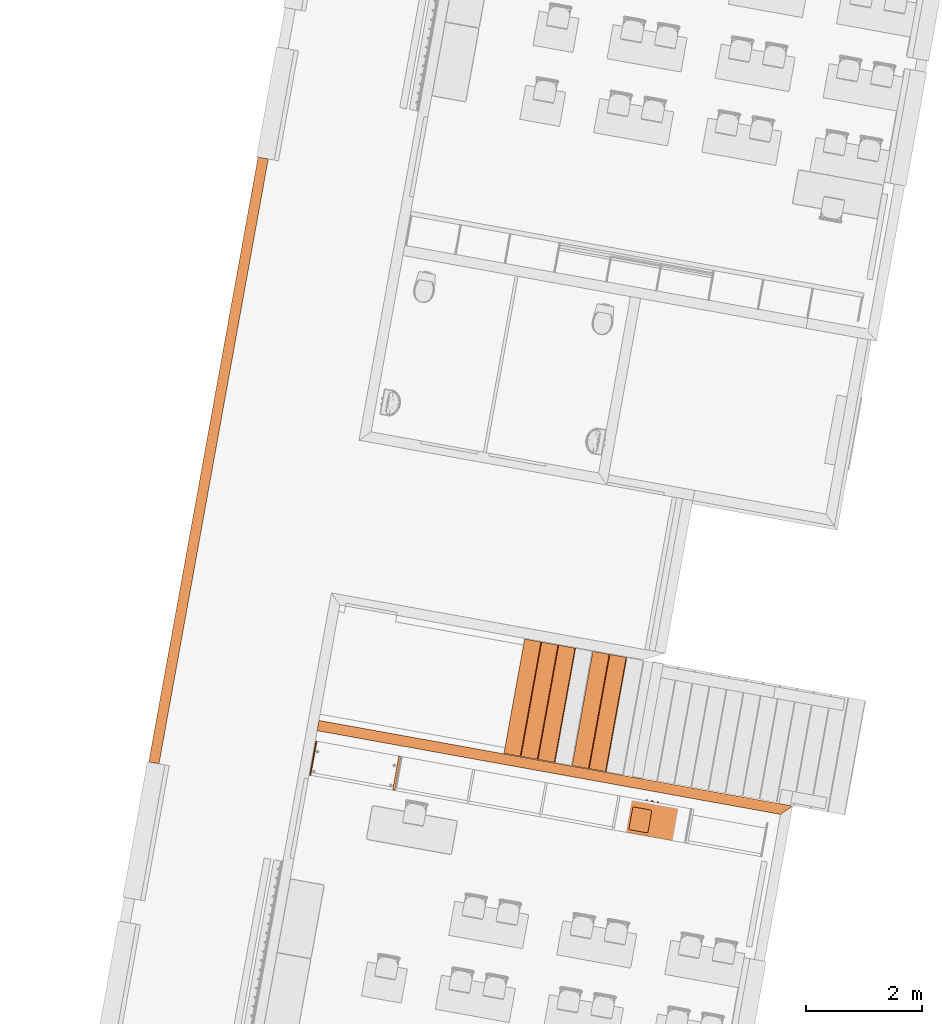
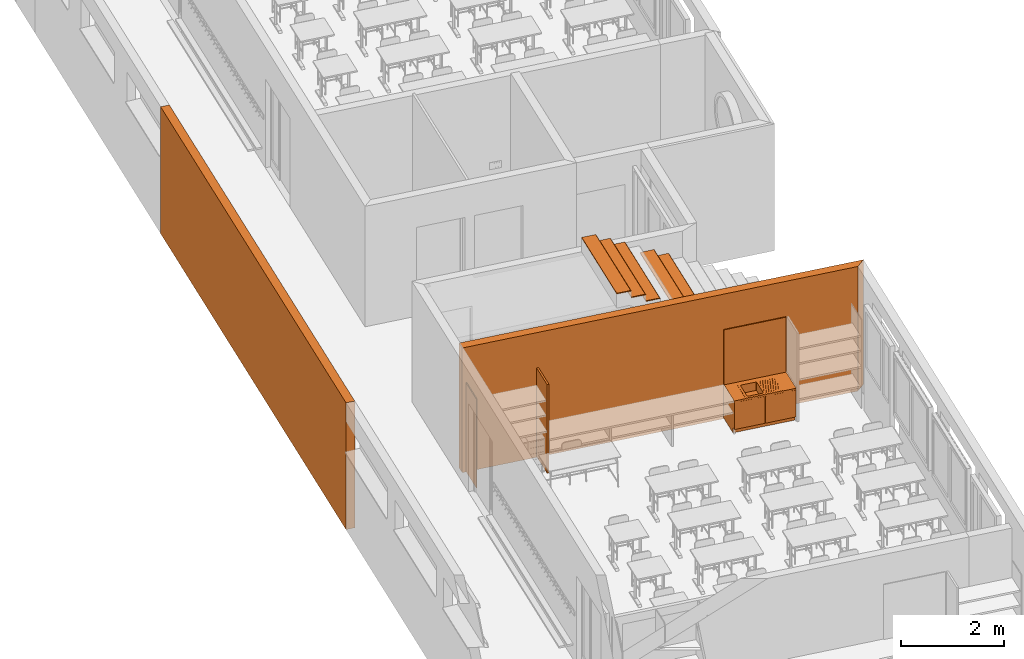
# One storey, part 29 of 79: 10 proxies, 1 element without a shape of its own.
"""IFC2X3 building model written with IfcOpenShell, lengths in metres."""

from ifc_helpers import new_model, entity, si_unit, converted_unit, derived_unit, money_unit, direction, frame, origin_with_axes, place, context, subcontext, project, spatial, polyline, outline, extrude, open_shell, faceted_brep, surface_model, source, transform, mapped, material, type_object, element, aggregate, save


model = new_model("IFC2X3")

# Units and contexts
model_context = context("Model", 3, precision=1e-05, world=origin_with_axes(), true_north=direction((0.0, 1.0)))
body_context = subcontext(model_context, "Body", "Model", "MODEL_VIEW")
ifc_project = project(units=[si_unit("LENGTHUNIT", "METRE"), si_unit("AREAUNIT", "SQUARE_METRE"), si_unit("VOLUMEUNIT", "CUBIC_METRE"), converted_unit("PLANEANGLEUNIT", "DEGREE", entity("IfcPlaneAngleMeasure", 0.0174532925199), si_unit("PLANEANGLEUNIT", "RADIAN"), dimensions=[0, 0, 0, 0, 0, 0, 0]), money_unit("CHF"), converted_unit("TIMEUNIT", "Year", entity("IfcTimeMeasure", 31556926.0), si_unit("TIMEUNIT", "SECOND"), dimensions=[0, 0, 1, 0, 0, 0, 0]), si_unit("MASSUNIT", "GRAM", prefix="KILO"), si_unit("THERMODYNAMICTEMPERATUREUNIT", "DEGREE_CELSIUS"), si_unit("LUMINOUSINTENSITYUNIT", "LUMEN"), si_unit("ENERGYUNIT", "JOULE", prefix="MEGA"), derived_unit("THERMALCONDUCTANCEUNIT", [(si_unit("POWERUNIT", "WATT"), 1), (si_unit("LENGTHUNIT", "METRE"), -1), (si_unit("THERMODYNAMICTEMPERATUREUNIT", "KELVIN"), -1)]), derived_unit("SPECIFICHEATCAPACITYUNIT", [(si_unit("ENERGYUNIT", "JOULE"), 1), (si_unit("MASSUNIT", "GRAM", prefix="KILO"), -1), (si_unit("THERMODYNAMICTEMPERATUREUNIT", "KELVIN"), -1)]), derived_unit("MASSDENSITYUNIT", [(si_unit("MASSUNIT", "GRAM", prefix="KILO"), 1), (si_unit("VOLUMEUNIT", "CUBIC_METRE"), -1)])], contexts=[model_context])

# Site, building, storey
site_placement = place(None, frame((0.0, 0.0, 0.0), z_axis=(0.0, 0.0, 1.0), x_axis=(-0.177771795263, -0.984071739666, 0.0)))
site = spatial("IfcSite", under=ifc_project, at=site_placement, Name="Site", CompositionType="ELEMENT")
building_placement = place(site_placement, origin_with_axes())
building = spatial("IfcBuilding", under=site, at=building_placement, Name="Bâtiment", CompositionType="ELEMENT")
storey_placement = place(building_placement, origin_with_axes())
storey = spatial("IfcBuildingStorey", under=building, at=storey_placement, Name="RDC", CompositionType="ELEMENT", Elevation=0.0)

# Proxies
ifc_material_1 = material(Name="_BA banché RAL9007")
building_element_proxy_type_1 = type_object("IfcBuildingElementProxyType", Name="_M ext 18 +18 gris 360", PredefinedType="NOTDEFINED")
proxy_1_placement = place(storey_placement, frame((146.189841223, -156.627149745, -0.15), z_axis=(0.0, 0.0, 1.0), x_axis=(0.0, 1.0, 0.0)))
element("IfcBuildingElementProxy", 1, at=proxy_1_placement, inside=storey, type_object=building_element_proxy_type_1, material=ifc_material_1, Name="M ext-milieu", context=body_context, shape_type="SweptSolid", body=[
    extrude(outline(polyline([(0.179999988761, -0.18), (8.32999964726, -0.18), (8.50999964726, 0.0), (0.18, 0.0), (0.179999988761, -0.18)])), origin_with_axes(), (0.0, 0.0, 1.0), 2.95),
])
ifc_material_2 = material(Name="_panneau mélaminé")
building_element_proxy_type_2 = type_object("IfcBuildingElementProxyType", Name="_panneau mélaminé 40", PredefinedType="NOTDEFINED")
proxy_2_placement = place(storey_placement, frame((147.149841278, -154.978236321, 0.0), z_axis=(0.0, 0.0, 1.0), x_axis=(-1.0, 0.0, 0.0)))
element("IfcBuildingElementProxy", 2, at=proxy_2_placement, inside=storey, type_object=building_element_proxy_type_2, material=ifc_material_2, Name="cloison-fd-classe G", context=body_context, shape_type="SweptSolid", body=[
    extrude(outline(polyline([(0.0, -0.04), (0.600000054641, -0.04), (0.600000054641, 0.0), (0.0, 0.0), (0.0, -0.04)])), origin_with_axes(), (0.0, 0.0, 1.0), 2.1),
])
building_element_proxy_type_3 = type_object("IfcBuildingElementProxyType", Name="_panneau mélaminé 19", PredefinedType="NOTDEFINED")
proxy_3_placement = place(storey_placement, frame((147.149841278, -156.418151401, 0.0), z_axis=(0.0, 0.0, 1.0), x_axis=(-1.0, 0.0, 0.0)))
element("IfcBuildingElementProxy", 3, at=proxy_3_placement, inside=storey, type_object=building_element_proxy_type_3, material=ifc_material_2, Name="cloison-fd-classe G", context=body_context, shape_type="SweptSolid", body=[
    extrude(outline(polyline([(0.0, 0.0), (0.600000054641, 0.0), (0.600000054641, 0.019), (0.0, 0.019), (0.0, 0.0)])), origin_with_axes(), (0.0, 0.0, 1.0), 2.1),
])
ifc_material_3 = material(Name="_BA banché MILIEU")
building_element_proxy_type_4 = type_object("IfcBuildingElementProxyType", Name="_M ext 18 +18 MILIEU 360", PredefinedType="NOTDEFINED")
proxy_4_placement = place(storey_placement, frame((147.419841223, -159.217107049, -0.15), z_axis=(0.0, 0.0, 1.0), x_axis=(-1.0, 0.0, 0.0)))
element("IfcBuildingElementProxy", 4, at=proxy_4_placement, inside=storey, type_object=building_element_proxy_type_4, material=ifc_material_3, Name="M ext-Ouest", context=body_context, shape_type="SweptSolid", body=[
    extrude(outline(polyline([(0.0, -0.18), (10.6349999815, -0.18), (10.6349999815, 0.0), (0.0, 0.0), (0.0, -0.18)])), origin_with_axes(), (0.0, 0.0, 1.0), 3.0),
])
ifc_material_4 = material(Name="Matériau de construction IFC")
building_element_proxy_type_5 = type_object("IfcBuildingElementProxyType", Name="Elément simple avec deux portes 21", PredefinedType="NOTDEFINED")
shared_shape_1 = source(origin_with_axes(), body_context, "Body", "SurfaceModel", [
    surface_model("IfcShellBasedSurfaceModel", [(0.5, 0.600000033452, 0.733), (0.496505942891, 0.600000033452, 0.733460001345), (0.496505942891, 0.620000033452, 0.733460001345), (0.5, 0.620000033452, 0.733), (0.49325, 0.600000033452, 0.734808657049), (0.49325, 0.620000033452, 0.734808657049), (0.503494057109, 0.600000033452, 0.733460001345), (0.503494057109, 0.620000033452, 0.733460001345), (0.490454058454, 0.600000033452, 0.736954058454), (0.490454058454, 0.620000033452, 0.736954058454), (0.50675, 0.600000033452, 0.734808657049), (0.50675, 0.620000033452, 0.734808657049), (0.488308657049, 0.600000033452, 0.73975), (0.488308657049, 0.620000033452, 0.73975), (0.509545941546, 0.600000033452, 0.736954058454), (0.509545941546, 0.620000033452, 0.736954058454), (0.486960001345, 0.600000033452, 0.743005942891), (0.486960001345, 0.620000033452, 0.743005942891), (0.511691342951, 0.600000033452, 0.73975), (0.511691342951, 0.620000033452, 0.73975), (0.4865, 0.600000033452, 0.7465), (0.4865, 0.620000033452, 0.7465), (0.513039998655, 0.600000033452, 0.743005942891), (0.513039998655, 0.620000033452, 0.743005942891), (0.486960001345, 0.600000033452, 0.749994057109), (0.486960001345, 0.620000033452, 0.749994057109), (0.5135, 0.600000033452, 0.7465), (0.5135, 0.620000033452, 0.7465), (0.488308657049, 0.600000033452, 0.75325), (0.488308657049, 0.620000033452, 0.75325), (0.513039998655, 0.600000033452, 0.749994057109), (0.513039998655, 0.620000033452, 0.749994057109), (0.490454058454, 0.600000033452, 0.756045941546), (0.490454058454, 0.620000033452, 0.756045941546), (0.511691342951, 0.600000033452, 0.75325), (0.511691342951, 0.620000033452, 0.75325), (0.49325, 0.600000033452, 0.758191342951), (0.49325, 0.620000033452, 0.758191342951), (0.509545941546, 0.600000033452, 0.756045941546), (0.509545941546, 0.620000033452, 0.756045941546), (0.496505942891, 0.600000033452, 0.759539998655), (0.496505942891, 0.620000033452, 0.759539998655), (0.50675, 0.600000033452, 0.758191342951), (0.50675, 0.620000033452, 0.758191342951), (0.5, 0.600000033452, 0.76), (0.5, 0.620000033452, 0.76), (0.503494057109, 0.600000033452, 0.759539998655), (0.503494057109, 0.620000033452, 0.759539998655)], [open_shell([[[0, 1, 2, 3]], [[1, 4, 5, 2]], [[6, 0, 3, 7]], [[4, 8, 9, 5]], [[10, 6, 7, 11]], [[8, 12, 13, 9]], [[14, 10, 11, 15]], [[12, 16, 17, 13]], [[18, 14, 15, 19]], [[16, 20, 21, 17]], [[22, 18, 19, 23]], [[20, 24, 25, 21]], [[26, 22, 23, 27]], [[24, 28, 29, 25]], [[30, 26, 27, 31]], [[28, 32, 33, 29]], [[34, 30, 31, 35]], [[32, 36, 37, 33]], [[38, 34, 35, 39]], [[36, 40, 41, 37]], [[42, 38, 39, 43]], [[40, 44, 45, 41]], [[46, 42, 43, 47]], [[44, 46, 47, 45]]])]),
    surface_model("IfcShellBasedSurfaceModel", [(0.7, 0.600000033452, 0.733), (0.696505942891, 0.600000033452, 0.733460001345), (0.696505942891, 0.620000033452, 0.733460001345), (0.7, 0.620000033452, 0.733), (0.69325, 0.600000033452, 0.734808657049), (0.69325, 0.620000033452, 0.734808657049), (0.703494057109, 0.600000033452, 0.733460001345), (0.703494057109, 0.620000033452, 0.733460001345), (0.690454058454, 0.600000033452, 0.736954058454), (0.690454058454, 0.620000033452, 0.736954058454), (0.70675, 0.600000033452, 0.734808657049), (0.70675, 0.620000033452, 0.734808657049), (0.688308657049, 0.600000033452, 0.73975), (0.688308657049, 0.620000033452, 0.73975), (0.709545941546, 0.600000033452, 0.736954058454), (0.709545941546, 0.620000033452, 0.736954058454), (0.686960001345, 0.600000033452, 0.743005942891), (0.686960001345, 0.620000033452, 0.743005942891), (0.711691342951, 0.600000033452, 0.73975), (0.711691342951, 0.620000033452, 0.73975), (0.6865, 0.600000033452, 0.7465), (0.6865, 0.620000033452, 0.7465), (0.713039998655, 0.600000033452, 0.743005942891), (0.713039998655, 0.620000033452, 0.743005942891), (0.686960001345, 0.600000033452, 0.749994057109), (0.686960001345, 0.620000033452, 0.749994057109), (0.7135, 0.600000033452, 0.7465), (0.7135, 0.620000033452, 0.7465), (0.688308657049, 0.600000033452, 0.75325), (0.688308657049, 0.620000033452, 0.75325), (0.713039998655, 0.600000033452, 0.749994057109), (0.713039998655, 0.620000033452, 0.749994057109), (0.690454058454, 0.600000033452, 0.756045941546), (0.690454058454, 0.620000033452, 0.756045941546), (0.711691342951, 0.600000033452, 0.75325), (0.711691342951, 0.620000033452, 0.75325), (0.69325, 0.600000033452, 0.758191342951), (0.69325, 0.620000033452, 0.758191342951), (0.709545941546, 0.600000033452, 0.756045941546), (0.709545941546, 0.620000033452, 0.756045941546), (0.696505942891, 0.600000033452, 0.759539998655), (0.696505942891, 0.620000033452, 0.759539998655), (0.70675, 0.600000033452, 0.758191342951), (0.70675, 0.620000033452, 0.758191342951), (0.7, 0.600000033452, 0.76), (0.7, 0.620000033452, 0.76), (0.703494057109, 0.600000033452, 0.759539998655), (0.703494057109, 0.620000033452, 0.759539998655)], [open_shell([[[0, 1, 2, 3]], [[1, 4, 5, 2]], [[6, 0, 3, 7]], [[4, 8, 9, 5]], [[10, 6, 7, 11]], [[8, 12, 13, 9]], [[14, 10, 11, 15]], [[12, 16, 17, 13]], [[18, 14, 15, 19]], [[16, 20, 21, 17]], [[22, 18, 19, 23]], [[20, 24, 25, 21]], [[26, 22, 23, 27]], [[24, 28, 29, 25]], [[30, 26, 27, 31]], [[28, 32, 33, 29]], [[34, 30, 31, 35]], [[32, 36, 37, 33]], [[38, 34, 35, 39]], [[36, 40, 41, 37]], [[42, 38, 39, 43]], [[40, 44, 45, 41]], [[46, 42, 43, 47]], [[44, 46, 47, 45]]])]),
    surface_model("IfcShellBasedSurfaceModel", [(0.6, 0.600000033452, 0.579), (0.594564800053, 0.600000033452, 0.579715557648), (0.594564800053, 0.620000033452, 0.579715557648), (0.6, 0.620000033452, 0.579), (0.5895, 0.600000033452, 0.581813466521), (0.5895, 0.620000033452, 0.581813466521), (0.605435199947, 0.600000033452, 0.579715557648), (0.605435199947, 0.620000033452, 0.579715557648), (0.585150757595, 0.600000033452, 0.585150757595), (0.585150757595, 0.620000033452, 0.585150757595), (0.6105, 0.600000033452, 0.581813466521), (0.6105, 0.620000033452, 0.581813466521), (0.581813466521, 0.600000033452, 0.5895), (0.581813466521, 0.620000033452, 0.5895), (0.614849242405, 0.600000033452, 0.585150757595), (0.614849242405, 0.620000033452, 0.585150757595), (0.579715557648, 0.600000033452, 0.594564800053), (0.579715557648, 0.620000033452, 0.594564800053), (0.618186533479, 0.600000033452, 0.5895), (0.618186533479, 0.620000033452, 0.5895), (0.579, 0.600000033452, 0.6), (0.579, 0.620000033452, 0.6), (0.620284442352, 0.600000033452, 0.594564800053), (0.620284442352, 0.620000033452, 0.594564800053), (0.579715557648, 0.600000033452, 0.605435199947), (0.579715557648, 0.620000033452, 0.605435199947), (0.621, 0.600000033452, 0.6), (0.621, 0.620000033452, 0.6), (0.581813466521, 0.600000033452, 0.6105), (0.581813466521, 0.620000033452, 0.6105), (0.620284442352, 0.600000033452, 0.605435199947), (0.620284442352, 0.620000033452, 0.605435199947), (0.585150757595, 0.600000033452, 0.614849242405), (0.585150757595, 0.620000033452, 0.614849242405), (0.618186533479, 0.600000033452, 0.6105), (0.618186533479, 0.620000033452, 0.6105), (0.5895, 0.600000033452, 0.618186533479), (0.5895, 0.620000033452, 0.618186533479), (0.614849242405, 0.600000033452, 0.614849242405), (0.614849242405, 0.620000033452, 0.614849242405), (0.594564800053, 0.600000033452, 0.620284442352), (0.594564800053, 0.620000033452, 0.620284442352), (0.6105, 0.600000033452, 0.618186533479), (0.6105, 0.620000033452, 0.618186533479), (0.6, 0.600000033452, 0.621), (0.6, 0.620000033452, 0.621), (0.605435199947, 0.600000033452, 0.620284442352), (0.605435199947, 0.620000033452, 0.620284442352)], [open_shell([[[0, 1, 2, 3]], [[1, 4, 5, 2]], [[6, 0, 3, 7]], [[4, 8, 9, 5]], [[10, 6, 7, 11]], [[8, 12, 13, 9]], [[14, 10, 11, 15]], [[12, 16, 17, 13]], [[18, 14, 15, 19]], [[16, 20, 21, 17]], [[22, 18, 19, 23]], [[20, 24, 25, 21]], [[26, 22, 23, 27]], [[24, 28, 29, 25]], [[30, 26, 27, 31]], [[28, 32, 33, 29]], [[34, 30, 31, 35]], [[32, 36, 37, 33]], [[38, 34, 35, 39]], [[36, 40, 41, 37]], [[42, 38, 39, 43]], [[40, 44, 45, 41]], [[46, 42, 43, 47]], [[44, 46, 47, 45]]])]),
    faceted_brep([(0.0, 0.07, 0.0), (1.278, 0.07, 0.0), (1.278, 0.07, 0.12), (0.0, 0.07, 0.12), (0.0, 0.600000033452, 0.0), (1.278, 0.600000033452, 0.0), (1.278, 0.600000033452, 0.12), (0.0, 0.600000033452, 0.12)], [[[0, 1, 2, 3]], [[0, 4, 5, 1]], [[1, 5, 6, 2]], [[3, 2, 6, 7]], [[4, 0, 3, 7]], [[5, 4, 7, 6]]]),
    faceted_brep([(0.0, 0.02, 0.12), (0.02, 0.02, 0.12), (0.02, 0.02, 0.14), (0.0, 0.02, 0.14), (0.0, 0.600000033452, 0.12), (0.02, 0.600000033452, 0.12), (1.258, 0.600000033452, 0.12), (1.278, 0.600000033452, 0.12), (1.278, 0.02, 0.12), (1.258, 0.02, 0.12), (1.258, 0.02, 0.14), (1.278, 0.02, 0.14), (1.278, 0.600000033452, 0.14), (1.258, 0.600000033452, 0.14), (0.02, 0.600000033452, 0.14), (0.0, 0.600000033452, 0.14)], [[[0, 1, 2, 3]], [[0, 4, 5, 6, 7, 8, 9, 1]], [[1, 9, 10, 2]], [[3, 2, 10, 11, 12, 13, 14, 15]], [[4, 0, 3, 15]], [[5, 4, 15, 14]], [[6, 5, 14, 13]], [[7, 6, 13, 12]], [[8, 7, 12, 11]], [[9, 8, 11, 10]]]),
    faceted_brep([(0.0, 0.02, 0.14), (0.02, 0.02, 0.14), (0.02, 0.02, 0.76), (0.0, 0.02, 0.76), (0.0, 0.600000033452, 0.14), (1.278, 0.600000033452, 0.14), (1.278, 0.02, 0.14), (1.258, 0.02, 0.14), (1.258, 0.580000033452, 0.14), (0.02, 0.580000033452, 0.14), (0.02, 0.580000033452, 0.76), (1.258, 0.580000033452, 0.76), (1.258, 0.02, 0.76), (1.278, 0.02, 0.76), (1.278, 0.600000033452, 0.76), (0.0, 0.600000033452, 0.76)], [[[0, 1, 2, 3]], [[0, 4, 5, 6, 7, 8, 9, 1]], [[1, 9, 10, 2]], [[3, 2, 10, 11, 12, 13, 14, 15]], [[4, 0, 3, 15]], [[5, 4, 15, 14]], [[6, 5, 14, 13]], [[7, 6, 13, 12]], [[8, 7, 12, 11]], [[9, 8, 11, 10]]]),
    faceted_brep([(1.258, 0.02, 0.41), (1.258, 0.580000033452, 0.41), (1.258, 0.580000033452, 0.43), (1.258, 0.02, 0.43), (0.02, 0.02, 0.41), (0.02, 0.580000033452, 0.41), (0.02, 0.580000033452, 0.43), (0.02, 0.02, 0.43)], [[[0, 1, 2, 3]], [[0, 4, 5, 1]], [[1, 5, 6, 2]], [[3, 2, 6, 7]], [[4, 0, 3, 7]], [[5, 4, 7, 6]]]),
    surface_model("IfcShellBasedSurfaceModel", [(0.309, 0.0550000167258, 0.605), (0.604, 0.0550000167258, 0.605), (0.604, 0.0550000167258, 0.8), (0.309, 0.0550000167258, 0.8), (0.299, 0.0576795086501, 0.605), (0.291679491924, 0.0650000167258, 0.605), (0.289, 0.0750000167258, 0.605), (0.289, 0.435000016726, 0.605), (0.291679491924, 0.445000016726, 0.605), (0.299, 0.452320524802, 0.605), (0.309, 0.455000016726, 0.605), (0.604, 0.455000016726, 0.605), (0.614, 0.452320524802, 0.605), (0.621320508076, 0.445000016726, 0.605), (0.624, 0.435000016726, 0.605), (0.624, 0.0750000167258, 0.605), (0.618142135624, 0.0608578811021, 0.605), (0.618142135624, 0.0608578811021, 0.8), (0.299, 0.0576795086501, 0.8), (0.291679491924, 0.0650000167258, 0.8), (0.289, 0.0750000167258, 0.8), (0.289, 0.435000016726, 0.8), (0.291679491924, 0.445000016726, 0.8), (0.299, 0.452320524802, 0.8), (0.309, 0.455000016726, 0.8), (0.604, 0.455000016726, 0.8), (0.614, 0.452320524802, 0.8), (0.621320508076, 0.445000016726, 0.8), (0.624, 0.435000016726, 0.8), (0.624, 0.0750000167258, 0.8)], [open_shell([[[0, 1, 2, 3]], [[0, 4, 5, 6, 7, 8, 9, 10, 11, 12, 13, 14, 15, 16, 1]], [[1, 16, 17, 2]], [[4, 0, 3, 18]], [[5, 4, 18, 19]], [[6, 5, 19, 20]], [[7, 6, 20, 21]], [[8, 7, 21, 22]], [[9, 8, 22, 23]], [[10, 9, 23, 24]], [[11, 10, 24, 25]], [[12, 11, 25, 26]], [[13, 12, 26, 27]], [[14, 13, 27, 28]], [[15, 14, 28, 29]], [[16, 15, 29, 17]]])]),
    faceted_brep([(0.259, 0.00500001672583, 0.8), (1.019, 0.00500001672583, 0.8), (1.019, 0.00500001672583, 0.805), (0.259, 0.00500001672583, 0.805), (0.249, 0.00767950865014, 0.8), (0.241679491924, 0.0150000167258, 0.8), (0.239, 0.0250000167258, 0.8), (0.239, 0.535000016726, 0.8), (0.241679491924, 0.545000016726, 0.8), (0.249, 0.552320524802, 0.8), (0.259, 0.555000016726, 0.8), (1.019, 0.555000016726, 0.8), (1.029, 0.552320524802, 0.8), (1.03632050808, 0.545000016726, 0.8), (1.039, 0.535000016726, 0.8), (1.039, 0.0250000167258, 0.8), (1.03314213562, 0.0108578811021, 0.8), (0.309, 0.0550000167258, 0.8), (0.604, 0.0550000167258, 0.8), (0.618142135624, 0.0608578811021, 0.8), (0.624, 0.0750000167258, 0.8), (0.624, 0.435000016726, 0.8), (0.621320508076, 0.445000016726, 0.8), (0.614, 0.452320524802, 0.8), (0.604, 0.455000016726, 0.8), (0.309, 0.455000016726, 0.8), (0.299, 0.452320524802, 0.8), (0.291679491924, 0.445000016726, 0.8), (0.289, 0.435000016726, 0.8), (0.289, 0.0750000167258, 0.8), (0.291679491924, 0.0650000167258, 0.8), (0.299, 0.0576795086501, 0.8), (1.03314213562, 0.0108578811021, 0.805), (1.039, 0.0250000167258, 0.805), (1.039, 0.535000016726, 0.805), (1.03632050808, 0.545000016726, 0.805), (1.029, 0.552320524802, 0.805), (1.019, 0.555000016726, 0.805), (0.259, 0.555000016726, 0.805), (0.249, 0.552320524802, 0.805), (0.241679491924, 0.545000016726, 0.805), (0.239, 0.535000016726, 0.805), (0.239, 0.0250000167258, 0.805), (0.241679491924, 0.0150000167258, 0.805), (0.249, 0.00767950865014, 0.805), (0.309, 0.0550000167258, 0.805), (0.299, 0.0576795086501, 0.805), (0.291679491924, 0.0650000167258, 0.805), (0.289, 0.0750000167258, 0.805), (0.289, 0.435000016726, 0.805), (0.291679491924, 0.445000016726, 0.805), (0.299, 0.452320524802, 0.805), (0.309, 0.455000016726, 0.805), (0.604, 0.455000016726, 0.805), (0.614, 0.452320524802, 0.805), (0.621320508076, 0.445000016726, 0.805), (0.624, 0.435000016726, 0.805), (0.624, 0.0750000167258, 0.805), (0.618142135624, 0.0608578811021, 0.805), (0.604, 0.0550000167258, 0.805)], [[[0, 1, 2, 3]], [[0, 4, 5, 6, 7, 8, 9, 10, 11, 12, 13, 14, 15, 16, 1], [17, 18, 19, 20, 21, 22, 23, 24, 25, 26, 27, 28, 29, 30, 31]], [[1, 16, 32, 2]], [[3, 2, 32, 33, 34, 35, 36, 37, 38, 39, 40, 41, 42, 43, 44], [45, 46, 47, 48, 49, 50, 51, 52, 53, 54, 55, 56, 57, 58, 59]], [[4, 0, 3, 44]], [[5, 4, 44, 43]], [[6, 5, 43, 42]], [[7, 6, 42, 41]], [[8, 7, 41, 40]], [[9, 8, 40, 39]], [[10, 9, 39, 38]], [[11, 10, 38, 37]], [[12, 11, 37, 36]], [[13, 12, 36, 35]], [[14, 13, 35, 34]], [[15, 14, 34, 33]], [[16, 15, 33, 32]], [[18, 17, 45, 59]], [[19, 18, 59, 58]], [[20, 19, 58, 57]], [[21, 20, 57, 56]], [[22, 21, 56, 55]], [[23, 22, 55, 54]], [[24, 23, 54, 53]], [[25, 24, 53, 52]], [[26, 25, 52, 51]], [[27, 26, 51, 50]], [[28, 27, 50, 49]], [[29, 28, 49, 48]], [[30, 29, 48, 47]], [[31, 30, 47, 46]], [[17, 31, 46, 45]]]),
    faceted_brep([(0.654, 0.0600000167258, 0.805), (0.959, 0.0600000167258, 0.805), (0.959, 0.0600000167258, 0.807), (0.654, 0.0600000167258, 0.807), (0.654, 0.0650000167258, 0.805), (0.959, 0.0650000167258, 0.805), (0.959, 0.0650000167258, 0.807), (0.654, 0.0650000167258, 0.807)], [[[0, 1, 2, 3]], [[0, 4, 5, 1]], [[1, 5, 6, 2]], [[3, 2, 6, 7]], [[4, 0, 3, 7]], [[5, 4, 7, 6]]]),
    faceted_brep([(0.654, 0.0925000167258, 0.805), (0.989, 0.0925000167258, 0.805), (0.989, 0.0925000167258, 0.807), (0.654, 0.0925000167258, 0.807), (0.654, 0.0975000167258, 0.805), (0.989, 0.0975000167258, 0.805), (0.989, 0.0975000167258, 0.807), (0.654, 0.0975000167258, 0.807)], [[[0, 1, 2, 3]], [[0, 4, 5, 1]], [[1, 5, 6, 2]], [[3, 2, 6, 7]], [[4, 0, 3, 7]], [[5, 4, 7, 6]]]),
    faceted_brep([(0.654, 0.125000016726, 0.805), (0.989, 0.125000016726, 0.805), (0.989, 0.125000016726, 0.807), (0.654, 0.125000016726, 0.807), (0.654, 0.130000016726, 0.805), (0.989, 0.130000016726, 0.805), (0.989, 0.130000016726, 0.807), (0.654, 0.130000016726, 0.807)], [[[0, 1, 2, 3]], [[0, 4, 5, 1]], [[1, 5, 6, 2]], [[3, 2, 6, 7]], [[4, 0, 3, 7]], [[5, 4, 7, 6]]]),
    faceted_brep([(0.654, 0.157500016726, 0.805), (0.989, 0.157500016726, 0.805), (0.989, 0.157500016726, 0.807), (0.654, 0.157500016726, 0.807), (0.654, 0.162500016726, 0.805), (0.989, 0.162500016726, 0.805), (0.989, 0.162500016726, 0.807), (0.654, 0.162500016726, 0.807)], [[[0, 1, 2, 3]], [[0, 4, 5, 1]], [[1, 5, 6, 2]], [[3, 2, 6, 7]], [[4, 0, 3, 7]], [[5, 4, 7, 6]]]),
    faceted_brep([(0.654, 0.190000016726, 0.805), (0.989, 0.190000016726, 0.805), (0.989, 0.190000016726, 0.807), (0.654, 0.190000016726, 0.807), (0.654, 0.195000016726, 0.805), (0.989, 0.195000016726, 0.805), (0.989, 0.195000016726, 0.807), (0.654, 0.195000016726, 0.807)], [[[0, 1, 2, 3]], [[0, 4, 5, 1]], [[1, 5, 6, 2]], [[3, 2, 6, 7]], [[4, 0, 3, 7]], [[5, 4, 7, 6]]]),
    faceted_brep([(0.654, 0.222500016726, 0.805), (0.989, 0.222500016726, 0.805), (0.989, 0.222500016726, 0.807), (0.654, 0.222500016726, 0.807), (0.654, 0.227500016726, 0.805), (0.989, 0.227500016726, 0.805), (0.989, 0.227500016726, 0.807), (0.654, 0.227500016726, 0.807)], [[[0, 1, 2, 3]], [[0, 4, 5, 1]], [[1, 5, 6, 2]], [[3, 2, 6, 7]], [[4, 0, 3, 7]], [[5, 4, 7, 6]]]),
    faceted_brep([(0.654, 0.255000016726, 0.805), (0.989, 0.255000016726, 0.805), (0.989, 0.255000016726, 0.807), (0.654, 0.255000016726, 0.807), (0.654, 0.260000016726, 0.805), (0.989, 0.260000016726, 0.805), (0.989, 0.260000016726, 0.807), (0.654, 0.260000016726, 0.807)], [[[0, 1, 2, 3]], [[0, 4, 5, 1]], [[1, 5, 6, 2]], [[3, 2, 6, 7]], [[4, 0, 3, 7]], [[5, 4, 7, 6]]]),
    faceted_brep([(0.654, 0.287500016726, 0.805), (0.989, 0.287500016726, 0.805), (0.989, 0.287500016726, 0.807), (0.654, 0.287500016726, 0.807), (0.654, 0.292500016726, 0.805), (0.989, 0.292500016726, 0.805), (0.989, 0.292500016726, 0.807), (0.654, 0.292500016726, 0.807)], [[[0, 1, 2, 3]], [[0, 4, 5, 1]], [[1, 5, 6, 2]], [[3, 2, 6, 7]], [[4, 0, 3, 7]], [[5, 4, 7, 6]]]),
    faceted_brep([(0.654, 0.320000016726, 0.805), (0.989, 0.320000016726, 0.805), (0.989, 0.320000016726, 0.807), (0.654, 0.320000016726, 0.807), (0.654, 0.325000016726, 0.805), (0.989, 0.325000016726, 0.805), (0.989, 0.325000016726, 0.807), (0.654, 0.325000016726, 0.807)], [[[0, 1, 2, 3]], [[0, 4, 5, 1]], [[1, 5, 6, 2]], [[3, 2, 6, 7]], [[4, 0, 3, 7]], [[5, 4, 7, 6]]]),
    faceted_brep([(0.654, 0.352500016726, 0.805), (0.989, 0.352500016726, 0.805), (0.989, 0.352500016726, 0.807), (0.654, 0.352500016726, 0.807), (0.654, 0.357500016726, 0.805), (0.989, 0.357500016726, 0.805), (0.989, 0.357500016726, 0.807), (0.654, 0.357500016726, 0.807)], [[[0, 1, 2, 3]], [[0, 4, 5, 1]], [[1, 5, 6, 2]], [[3, 2, 6, 7]], [[4, 0, 3, 7]], [[5, 4, 7, 6]]]),
    faceted_brep([(0.654, 0.385000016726, 0.805), (0.989, 0.385000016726, 0.805), (0.989, 0.385000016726, 0.807), (0.654, 0.385000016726, 0.807), (0.654, 0.390000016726, 0.805), (0.989, 0.390000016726, 0.805), (0.989, 0.390000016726, 0.807), (0.654, 0.390000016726, 0.807)], [[[0, 1, 2, 3]], [[0, 4, 5, 1]], [[1, 5, 6, 2]], [[3, 2, 6, 7]], [[4, 0, 3, 7]], [[5, 4, 7, 6]]]),
    faceted_brep([(0.654, 0.417500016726, 0.805), (0.989, 0.417500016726, 0.805), (0.989, 0.417500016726, 0.807), (0.654, 0.417500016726, 0.807), (0.654, 0.422500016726, 0.805), (0.989, 0.422500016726, 0.805), (0.989, 0.422500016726, 0.807), (0.654, 0.422500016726, 0.807)], [[[0, 1, 2, 3]], [[0, 4, 5, 1]], [[1, 5, 6, 2]], [[3, 2, 6, 7]], [[4, 0, 3, 7]], [[5, 4, 7, 6]]]),
    faceted_brep([(0.654, 0.450000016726, 0.805), (0.959, 0.450000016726, 0.805), (0.959, 0.450000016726, 0.807), (0.654, 0.450000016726, 0.807), (0.654, 0.455000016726, 0.805), (0.959, 0.455000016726, 0.805), (0.959, 0.455000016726, 0.807), (0.654, 0.455000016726, 0.807)], [[[0, 1, 2, 3]], [[0, 4, 5, 1]], [[1, 5, 6, 2]], [[3, 2, 6, 7]], [[4, 0, 3, 7]], [[5, 4, 7, 6]]]),
    faceted_brep([(0.0, 0.0, 0.76), (1.278, 0.0, 0.76), (1.278, 0.0, 0.8), (0.0, 0.0, 0.8), (0.0, 0.600000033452, 0.76), (1.278, 0.600000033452, 0.76), (0.264, 0.0500000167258, 0.76), (1.014, 0.0500000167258, 0.76), (1.014, 0.535000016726, 0.76), (0.264, 0.535000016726, 0.76), (1.278, 0.600000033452, 0.8), (0.0, 0.600000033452, 0.8), (0.264, 0.0500000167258, 0.8), (0.264, 0.535000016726, 0.8), (1.014, 0.535000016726, 0.8), (1.014, 0.0500000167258, 0.8)], [[[0, 1, 2, 3]], [[0, 4, 5, 1], [6, 7, 8, 9]], [[1, 5, 10, 2]], [[3, 2, 10, 11], [12, 13, 14, 15]], [[4, 0, 3, 11]], [[5, 4, 11, 10]], [[7, 6, 12, 15]], [[8, 7, 15, 14]], [[9, 8, 14, 13]], [[6, 9, 13, 12]]]),
    faceted_brep([(0.0, 0.580000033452, 0.8), (1.278, 0.580000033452, 0.8), (1.278, 0.580000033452, 2.1), (0.0, 0.580000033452, 2.1), (0.0, 0.600000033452, 0.8), (1.278, 0.600000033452, 0.8), (1.278, 0.600000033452, 2.1), (0.0, 0.600000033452, 2.1)], [[[0, 1, 2, 3]], [[0, 4, 5, 1]], [[1, 5, 6, 2]], [[3, 2, 6, 7]], [[4, 0, 3, 7]], [[5, 4, 7, 6]]]),
    faceted_brep([(0.0015, 0.02, 0.1215), (0.6375, 0.02, 0.1215), (0.6375, 0.0, 0.1215), (0.0015, 0.0, 0.1215), (0.0015, 0.02, 0.7585), (0.6375, 0.02, 0.7585), (0.6375, 0.0, 0.7585), (0.0015, 0.0, 0.7585)], [[[0, 1, 2, 3]], [[0, 4, 5, 1]], [[1, 5, 6, 2]], [[3, 2, 6, 7]], [[4, 0, 3, 7]], [[5, 4, 7, 6]]]),
    faceted_brep([(1.2765, 0.02, 0.1215), (1.2765, 0.0, 0.1215), (0.6405, 0.0, 0.1215), (0.6405, 0.02, 0.1215), (1.2765, 0.02, 0.7585), (1.2765, 0.0, 0.7585), (0.6405, 0.0, 0.7585), (0.6405, 0.02, 0.7585)], [[[0, 1, 2, 3]], [[4, 5, 1, 0]], [[1, 5, 6, 2]], [[3, 2, 6, 7]], [[0, 3, 7, 4]], [[7, 6, 5, 4]]]),
])
proxy_5_placement = place(storey_placement, frame((147.14984124, -151.124151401, 0.0), z_axis=(0.0, 0.0, 1.0), x_axis=(0.0, 1.0, 0.0)))
element("IfcBuildingElementProxy", 5, at=proxy_5_placement, inside=storey, type_object=building_element_proxy_type_5, material=ifc_material_4, Name="evier-classe", context=body_context, shape_type="MappedRepresentation", body=[
    mapped(shared_shape_1, transform((0.0, 0.0, 0.0))),
])

building_element_proxy_type_6 = type_object("IfcBuildingElementProxyType", Name="Type d'escalier", PredefinedType="NOTDEFINED")
proxy_6_placement = place(storey_placement, origin_with_axes())
proxy_6 = element("IfcBuildingElementProxy", 6, at=proxy_6_placement, inside=storey, type_object=building_element_proxy_type_6, Name="ESC-2")
ifc_material_5 = material(Name="_BA banché")
building_element_proxy_type_7 = type_object("IfcBuildingElementProxyType", Name="IfcBuildingElementProxy", PredefinedType="NOTDEFINED")
shared_shape_2 = source(origin_with_axes(), body_context, "Body", "Brep", [
    faceted_brep([(-1.005, -0.3, 0.0), (-1.005, -0.3, -0.02), (1.00505429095, -0.3, -0.02), (1.00505429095, -0.3, 0.0), (-1.005, -0.02, 0.0), (-1.005, -0.0165270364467, -0.00030384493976), (-1.005, -0.0131595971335, -0.00120614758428), (-1.005, -0.00999999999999, -0.00267949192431), (-1.005, -0.00714424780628, -0.00467911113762), (-1.005, -0.00467911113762, -0.00714424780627), (-1.005, -0.00267949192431, -0.01), (-1.005, -0.00120614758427, -0.0131595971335), (-1.005, -0.00030384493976, -0.0165270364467), (-1.005, 0.0, -0.02), (1.00505429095, 0.0, -0.02), (1.00505429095, -0.00030384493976, -0.0165270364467), (1.00505429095, -0.00120614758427, -0.0131595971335), (1.00505429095, -0.00267949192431, -0.01), (1.00505429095, -0.00467911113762, -0.00714424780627), (1.00505429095, -0.00714424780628, -0.00467911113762), (1.00505429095, -0.00999999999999, -0.00267949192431), (1.00505429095, -0.0131595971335, -0.00120614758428), (1.00505429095, -0.0165270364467, -0.00030384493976), (1.00505429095, -0.02, 0.0)], [[[0, 1, 2, 3]], [[4, 5, 6, 7, 8, 9, 10, 11, 12, 13, 1, 0]], [[14, 2, 1, 13]], [[15, 16, 17, 18, 19, 20, 21, 22, 23, 3, 2, 14]], [[3, 23, 4, 0]], [[22, 5, 4, 23]], [[21, 6, 5, 22]], [[20, 7, 6, 21]], [[19, 8, 7, 20]], [[18, 9, 8, 19]], [[17, 10, 9, 18]], [[16, 11, 10, 17]], [[15, 12, 11, 16]], [[14, 13, 12, 15]]]),
])
proxy_7_placement = place(proxy_6_placement, frame((145.175042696, -151.395380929, 2.4), z_axis=(0.0, 0.0, 1.0), x_axis=(1.0, 0.0, 0.0)))
proxy_7 = element("IfcBuildingElementProxy", 7, at=proxy_7_placement, type_object=building_element_proxy_type_7, material=ifc_material_5, Name="MARCHE-021", context=body_context, shape_type="MappedRepresentation", body=[
    mapped(shared_shape_2, transform((0.0, 0.0, 0.0))),
])
proxy_8_placement = place(proxy_6_placement, frame((145.175042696, -151.695380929, 2.56), z_axis=(0.0, 0.0, 1.0), x_axis=(1.0, 0.0, 0.0)))
proxy_8 = element("IfcBuildingElementProxy", 8, at=proxy_8_placement, type_object=building_element_proxy_type_7, material=ifc_material_5, Name="MARCHE-021", context=body_context, shape_type="MappedRepresentation", body=[
    mapped(shared_shape_2, transform((0.0, 0.0, 0.0))),
])
proxy_9_placement = place(proxy_6_placement, frame((145.175042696, -152.295380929, 2.88), z_axis=(0.0, 0.0, 1.0), x_axis=(1.0, 0.0, 0.0)))
proxy_9 = element("IfcBuildingElementProxy", 9, at=proxy_9_placement, type_object=building_element_proxy_type_7, material=ifc_material_5, Name="MARCHE-021", context=body_context, shape_type="MappedRepresentation", body=[
    mapped(shared_shape_2, transform((0.0, 0.0, 0.0))),
])
proxy_10_placement = place(proxy_6_placement, frame((145.175042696, -152.595380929, 3.04), z_axis=(0.0, 0.0, 1.0), x_axis=(1.0, 0.0, 0.0)))
proxy_10 = element("IfcBuildingElementProxy", 10, at=proxy_10_placement, type_object=building_element_proxy_type_7, material=ifc_material_5, Name="MARCHE-021", context=body_context, shape_type="MappedRepresentation", body=[
    mapped(shared_shape_2, transform((0.0, 0.0, 0.0))),
])
proxy_11_placement = place(proxy_6_placement, frame((145.175042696, -152.895380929, 3.2), z_axis=(0.0, 0.0, 1.0), x_axis=(1.0, 0.0, 0.0)))
proxy_11 = element("IfcBuildingElementProxy", 11, at=proxy_11_placement, type_object=building_element_proxy_type_7, material=ifc_material_5, Name="MARCHE-021", context=body_context, shape_type="MappedRepresentation", body=[
    mapped(shared_shape_2, transform((0.0, 0.0, 0.0))),
])
aggregate(proxy_6, [proxy_7, proxy_8, proxy_9, proxy_10, proxy_11])

save(model, "model.ifc")
